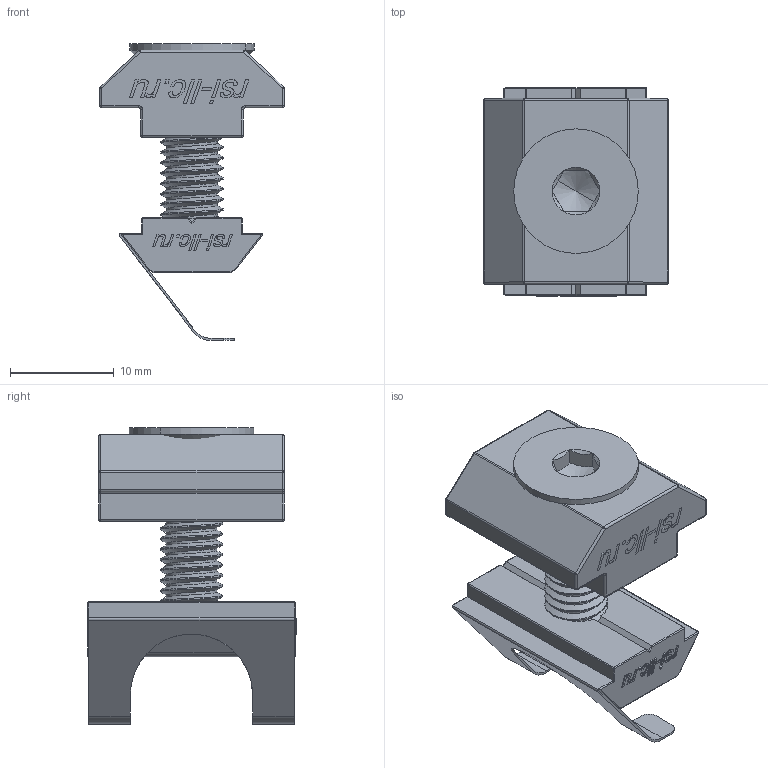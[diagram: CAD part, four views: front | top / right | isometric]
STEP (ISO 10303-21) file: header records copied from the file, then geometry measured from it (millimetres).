
FILE_DESCRIPTION (( 'STEP AP214' ), '1' );
FILE_NAME ('PC404550(Ì6)S10.STEP', '2026-06-01T12:08:05', ( '' ), ( '' ), 'SwSTEP 2.0', 'SolidWorks 2022', '' );
FILE_SCHEMA (( 'AUTOMOTIVE_DESIGN' ));
Length unit declared in the file: millimetre
Products named in the file (4): 2А11.А31А.01; 5073; PC404550(М6)S10; Винт DIN7991 (потай) кл. пр. 8.8_М6x20
Assembly tree (3 placements, depth 2):
  PC404550(М6)S10
    2А11.А31А.01
    Винт DIN7991 (потай) кл. пр. 8.8_М6x20
    5073
Bounding box: 17.8 x 20.1 x 28.57 mm (x, y, z)
Volume: 3390.3 mm3; surface area: 3302.9 mm2
Topology: 15 solids, 15 shells, 446 faces, 1126 edges, 701 vertices
Faces by surface type: plane 185, cylinder 132, bspline 76, sphere 22, cone 21, torus 10
Entity records: 25427 total; most frequent: CARTESIAN_POINT 14126, ORIENTED_EDGE 2212, DIRECTION 1678, EDGE_CURVE 1106, VERTEX_POINT 701, LINE 624, VECTOR 624, AXIS2_PLACEMENT_3D 527
